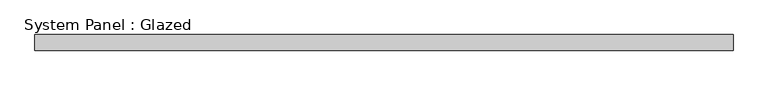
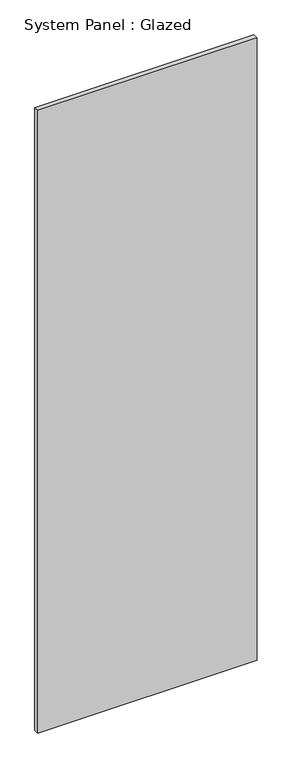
"""IFC4 building model written with IfcOpenShell, lengths in millimetres: plate geometry, System Panel : Glazed."""

from ifc_helpers import new_model, si_unit, origin, origin_with_axes, place, context, project, spatial, polyline, outline, extrude, source, transform, mapped, element, save


def system_panel_glazed_c9b22899(model_context):
    return source(origin(), model_context, "Body", "SweptSolid", [
        extrude(outline(polyline([(550.0, 24.5), (-550.0, 24.5), (-550.0, 49.5), (550.0, 49.5), (550.0, 24.5)])), origin_with_axes(), (0.0, 0.0, 1.0), 3300.0),
    ])


if __name__ == "__main__":
    model = new_model("IFC4")
    model_context = context("Model", 3, world=origin())
    ifc_project = project(units=[si_unit("LENGTHUNIT", "METRE", prefix="MILLI")], contexts=[model_context])
    site = spatial("IfcSite", under=ifc_project)
    building = spatial("IfcBuilding", under=site)
    placement = place(None, origin())
    system_panel_glazed_shape = system_panel_glazed_c9b22899(model_context)
    element("IfcPlate", 1, ObjectType="System Panel : Glazed", at=placement, inside=building, context=model_context, shape_type="MappedRepresentation", body=[
        mapped(system_panel_glazed_shape, transform((0.0, 0.0, 0.0), x_axis=(1.0, 0.0, 0.0), y_axis=(0.0, 1.0, 0.0), z_axis=(0.0, 0.0, 1.0))),
    ])
    save(model, "model.ifc")
